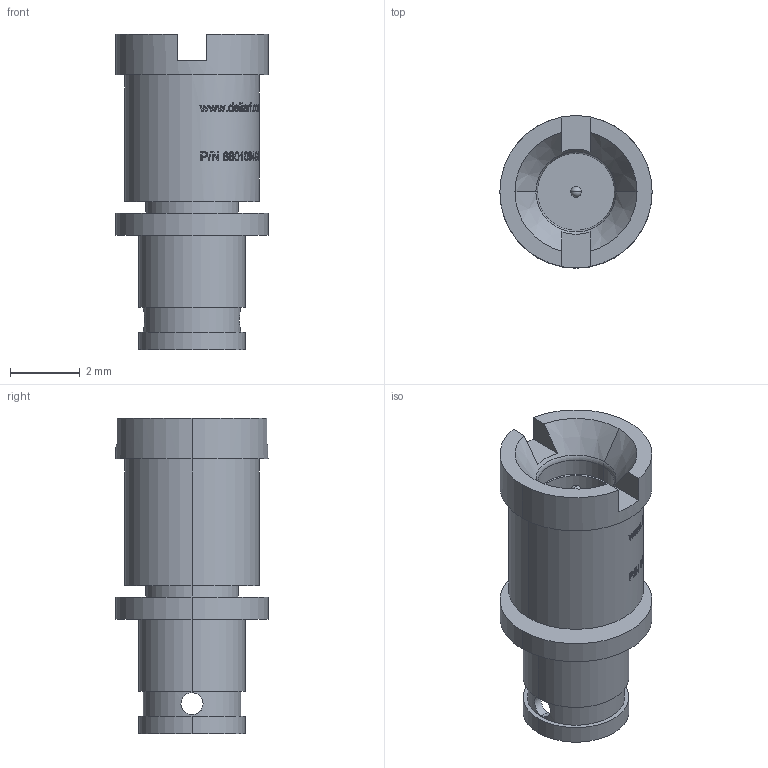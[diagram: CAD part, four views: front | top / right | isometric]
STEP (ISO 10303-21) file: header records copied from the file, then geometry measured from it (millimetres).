
FILE_DESCRIPTION (( 'STEP AP203' ), '1' );
FILE_NAME ('8801094G003-001.STEP', '2023-10-18T20:34:12', ( '' ), ( '' ), 'SwSTEP 2.0', 'SolidWorks 2022', '' );
FILE_SCHEMA (( 'CONFIG_CONTROL_DESIGN' ));
Length unit declared in the file: inch
Products named in the file (1): 8801094G003-001
Bounding box: 4.37 x 4.37 x 9.06 mm (x, y, z)
Volume: 69.3 mm3; surface area: 274 mm2
Topology: 2 solids, 2 shells, 536 faces, 1417 edges, 936 vertices
Faces by surface type: bspline 279, plane 141, cylinder 97, cone 15, torus 2, sphere 2
Entity records: 21849 total; most frequent: CARTESIAN_POINT 10984, ORIENTED_EDGE 2830, EDGE_CURVE 1415, DIRECTION 1213, VERTEX_POINT 936, B_SPLINE_CURVE_WITH_KNOTS 904, EDGE_LOOP 595, ADVANCED_FACE 536
